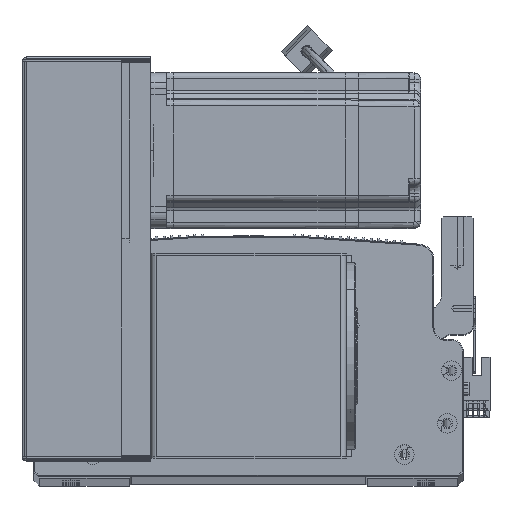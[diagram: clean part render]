
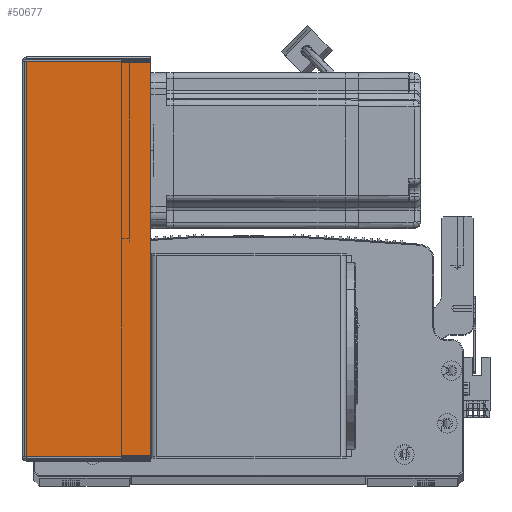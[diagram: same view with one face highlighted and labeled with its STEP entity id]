
A CAD part, top view. The second image highlights one B-rep face of the part: STEP entity #50677.
In plain terms, the highlighted planar face has unit normal (0, 0, 1) as drawn and (0, 1, 0) by its records, which use the part's own axes.
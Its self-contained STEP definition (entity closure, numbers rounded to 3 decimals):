
#2129 = VERTEX_POINT ( 'NONE', #24791 ) ;
#5628 = CARTESIAN_POINT ( 'NONE',  ( 0.737, 107.5, -203.293 ) ) ;
#14818 = CARTESIAN_POINT ( 'NONE',  ( 0., 107.5, -0.707 ) ) ;
#15189 = CARTESIAN_POINT ( 'NONE',  ( 0.737, 107.5, -0.707 ) ) ;
#16083 = DIRECTION ( 'NONE',  ( 1., 0., 0. ) ) ;
#22272 = VECTOR ( 'NONE', #57756, 1000. ) ;
#22521 = VERTEX_POINT ( 'NONE', #15189 ) ;
#22638 = DIRECTION ( 'NONE',  ( 0., -1., 0. ) ) ;
#22960 = CARTESIAN_POINT ( 'NONE',  ( 0., 107.5, 0. ) ) ;
#24791 = CARTESIAN_POINT ( 'NONE',  ( 64.5, 107.5, -203.293 ) ) ;
#36580 = EDGE_CURVE ( 'NONE', #85867, #2129, #63324, .T. ) ;
#37532 = CARTESIAN_POINT ( 'NONE',  ( 0.737, 107.5, 0. ) ) ;
#41968 = VECTOR ( 'NONE', #44393, 1000. ) ;
#44116 = LINE ( 'NONE', #82609, #22272 ) ;
#44393 = DIRECTION ( 'NONE',  ( 0., 0., -1. ) ) ;
#44793 = PLANE ( 'NONE',  #56360 ) ;
#47492 = DIRECTION ( 'NONE',  ( 0., 0., -1. ) ) ;
#48163 = VECTOR ( 'NONE', #16083, 1000. ) ;
#49259 = LINE ( 'NONE', #14818, #48163 ) ;
#50677 = ADVANCED_FACE ( 'NONE', ( #69620 ), #44793, .F. ) ;
#51770 = EDGE_CURVE ( 'NONE', #63894, #2129, #44116, .T. ) ;
#52502 = DIRECTION ( 'NONE',  ( 1., 0., 0. ) ) ;
#54044 = VECTOR ( 'NONE', #47492, 1000. ) ;
#54519 = LINE ( 'NONE', #37532, #41968 ) ;
#55750 = EDGE_CURVE ( 'NONE', #22521, #85867, #49259, .T. ) ;
#56360 = AXIS2_PLACEMENT_3D ( 'NONE', #22960, #22638, #52502 ) ;
#57196 = ORIENTED_EDGE ( 'NONE', *, *, #75025, .F. ) ;
#57756 = DIRECTION ( 'NONE',  ( 1., 0., 0. ) ) ;
#57993 = ORIENTED_EDGE ( 'NONE', *, *, #55750, .T. ) ;
#62309 = CARTESIAN_POINT ( 'NONE',  ( 64.5, 107.5, -204. ) ) ;
#63324 = LINE ( 'NONE', #62309, #54044 ) ;
#63894 = VERTEX_POINT ( 'NONE', #5628 ) ;
#69620 = FACE_OUTER_BOUND ( 'NONE', #78579, .T. ) ;
#69900 = ORIENTED_EDGE ( 'NONE', *, *, #36580, .T. ) ;
#75025 = EDGE_CURVE ( 'NONE', #22521, #63894, #54519, .T. ) ;
#78579 = EDGE_LOOP ( 'NONE', ( #57196, #57993, #69900, #84663 ) ) ;
#82609 = CARTESIAN_POINT ( 'NONE',  ( 0., 107.5, -203.293 ) ) ;
#84663 = ORIENTED_EDGE ( 'NONE', *, *, #51770, .F. ) ;
#85867 = VERTEX_POINT ( 'NONE', #87178 ) ;
#87178 = CARTESIAN_POINT ( 'NONE',  ( 64.5, 107.5, -0.707 ) ) ;
